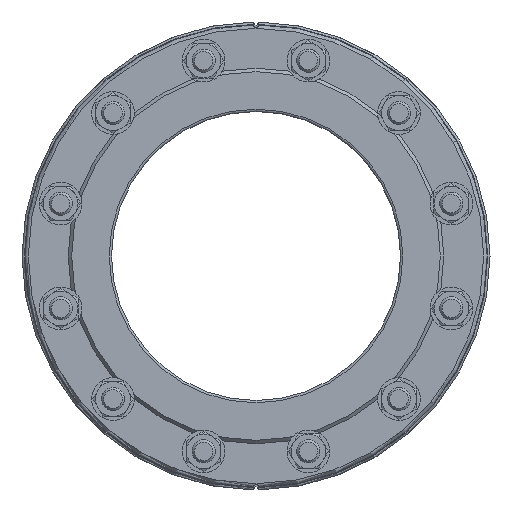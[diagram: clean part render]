
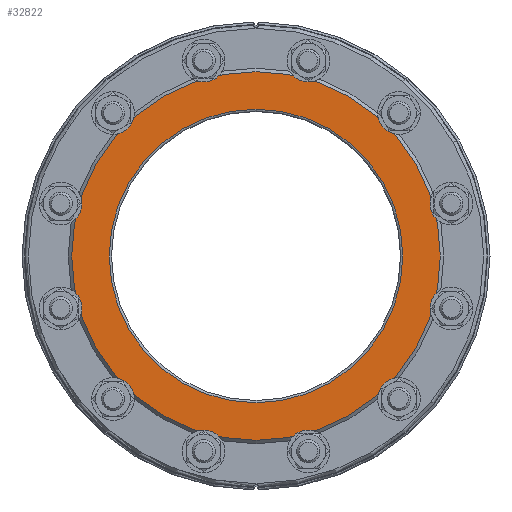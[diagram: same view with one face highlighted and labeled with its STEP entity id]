
A CAD part, left-side view. The second image highlights one B-rep face of the part: STEP entity #32822.
In plain terms, the highlighted planar face has unit normal (-1, 0, 0).
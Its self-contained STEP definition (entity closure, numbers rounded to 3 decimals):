
#1448 = CARTESIAN_POINT ( 'NONE',  ( -5., 0., 0. ) ) ;
#2007 = DIRECTION ( 'NONE',  ( 1., 0., 0. ) ) ;
#6285 = DIRECTION ( 'NONE',  ( -1., 0., 0. ) ) ;
#11576 = AXIS2_PLACEMENT_3D ( 'NONE', #11957, #2007, #39935 ) ;
#11957 = CARTESIAN_POINT ( 'NONE',  ( -5., 0., 125. ) ) ;
#13450 = CARTESIAN_POINT ( 'NONE',  ( -5., 0., 0. ) ) ;
#15628 = EDGE_CURVE ( 'NONE', #35246, #35246, #33819, .T. ) ;
#17849 = VERTEX_POINT ( 'NONE', #28018 ) ;
#18023 = AXIS2_PLACEMENT_3D ( 'NONE', #13450, #6285, #34470 ) ;
#18635 = FACE_OUTER_BOUND ( 'NONE', #18796, .T. ) ;
#18796 = EDGE_LOOP ( 'NONE', ( #45027 ) ) ;
#19443 = DIRECTION ( 'NONE',  ( 0., 1., 0. ) ) ;
#19552 = PLANE ( 'NONE',  #11576 ) ;
#21805 = CARTESIAN_POINT ( 'NONE',  ( -5., 127., 0. ) ) ;
#22081 = FACE_BOUND ( 'NONE', #38558, .T. ) ;
#24194 = AXIS2_PLACEMENT_3D ( 'NONE', #1448, #44639, #19443 ) ;
#26872 = CIRCLE ( 'NONE', #18023, 159.5 ) ;
#28018 = CARTESIAN_POINT ( 'NONE',  ( -5., -159.5, 0. ) ) ;
#29956 = EDGE_CURVE ( 'NONE', #17849, #17849, #26872, .T. ) ;
#31815 = ORIENTED_EDGE ( 'NONE', *, *, #15628, .T. ) ;
#32822 = ADVANCED_FACE ( 'NONE', ( #22081, #18635 ), #19552, .F. ) ;
#33819 = CIRCLE ( 'NONE', #24194, 127. ) ;
#34470 = DIRECTION ( 'NONE',  ( 0., -1., 0. ) ) ;
#35246 = VERTEX_POINT ( 'NONE', #21805 ) ;
#38558 = EDGE_LOOP ( 'NONE', ( #31815 ) ) ;
#39935 = DIRECTION ( 'NONE',  ( 0., 1., 0. ) ) ;
#44639 = DIRECTION ( 'NONE',  ( 1., 0., 0. ) ) ;
#45027 = ORIENTED_EDGE ( 'NONE', *, *, #29956, .T. ) ;
